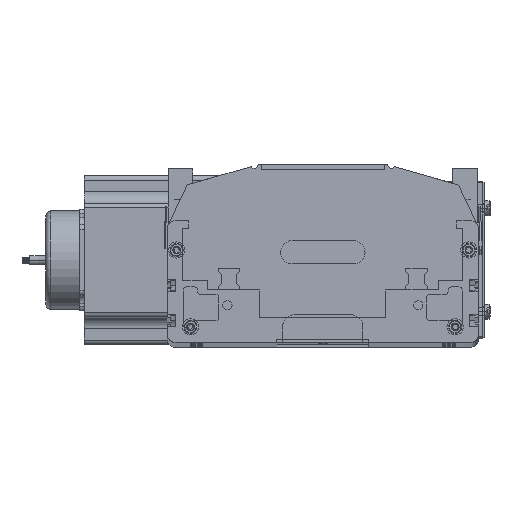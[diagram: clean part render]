
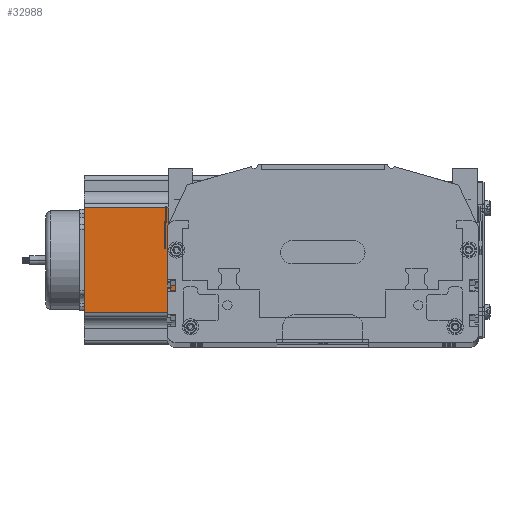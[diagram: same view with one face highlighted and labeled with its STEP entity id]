
A CAD part, top view. The second image highlights one B-rep face of the part: STEP entity #32988.
In plain terms, the highlighted planar face has unit normal (0, 0, 1) as drawn and (0, -1, 0) by its records, which use the part's own axes.
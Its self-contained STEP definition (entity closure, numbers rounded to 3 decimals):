
#32985 = VERTEX_POINT ( 'NONE', #81436 ) ;
#32988 = ADVANCED_FACE ( 'NONE', ( #81437 ), #81438, .F. ) ;
#32989 = VERTEX_POINT ( 'NONE', #81427 ) ;
#32990 = ORIENTED_EDGE ( 'NONE', *, *, #33251, .T. ) ;
#32993 = ORIENTED_EDGE ( 'NONE', *, *, #33001, .T. ) ;
#32994 = EDGE_CURVE ( 'NONE', #32989, #33250, #81389, .T. ) ;
#32997 = ORIENTED_EDGE ( 'NONE', *, *, #32994, .F. ) ;
#33000 = EDGE_LOOP ( 'NONE', ( #32990, #32993, #32997, #33023 ) ) ;
#33001 = EDGE_CURVE ( 'NONE', #32985, #33250, #81384, .T. ) ;
#33021 = EDGE_CURVE ( 'NONE', #32989, #33256, #81341, .T. ) ;
#33023 = ORIENTED_EDGE ( 'NONE', *, *, #33021, .T. ) ;
#33250 = VERTEX_POINT ( 'NONE', #81736 ) ;
#33251 = EDGE_CURVE ( 'NONE', #33256, #32985, #81735, .T. ) ;
#33256 = VERTEX_POINT ( 'NONE', #81729 ) ;
#81322 = CARTESIAN_POINT ( 'NONE',  ( 0., 0., 160.5 ) ) ;
#81340 = CARTESIAN_POINT ( 'NONE',  ( 21.048, 0., 160.5 ) ) ;
#81341 = LINE ( 'NONE', #81340, #81361 ) ;
#81360 = DIRECTION ( 'NONE',  ( 0., 0., -1. ) ) ;
#81361 = VECTOR ( 'NONE', #81360, 1000. ) ;
#81381 = DIRECTION ( 'NONE',  ( 1., 0., 0. ) ) ;
#81383 = CARTESIAN_POINT ( 'NONE',  ( 88.952, 0., 160.5 ) ) ;
#81384 = LINE ( 'NONE', #81383, #81418 ) ;
#81389 = LINE ( 'NONE', #81322, #81432 ) ;
#81417 = DIRECTION ( 'NONE',  ( 0., 0., 1. ) ) ;
#81418 = VECTOR ( 'NONE', #81417, 1000. ) ;
#81427 = CARTESIAN_POINT ( 'NONE',  ( 21.048, 0., 160.5 ) ) ;
#81428 = DIRECTION ( 'NONE',  ( 0., 0., 1. ) ) ;
#81429 = DIRECTION ( 'NONE',  ( 0., 1., 0. ) ) ;
#81430 = CARTESIAN_POINT ( 'NONE',  ( 0., 0., 160.5 ) ) ;
#81431 = AXIS2_PLACEMENT_3D ( 'NONE', #81430, #81429, #81428 ) ;
#81432 = VECTOR ( 'NONE', #81381, 1000. ) ;
#81436 = CARTESIAN_POINT ( 'NONE',  ( 88.952, 0., 0. ) ) ;
#81437 = FACE_OUTER_BOUND ( 'NONE', #33000, .T. ) ;
#81438 = PLANE ( 'NONE',  #81431 ) ;
#81600 = VECTOR ( 'NONE', #81707, 1000. ) ;
#81707 = DIRECTION ( 'NONE',  ( 1., 0., 0. ) ) ;
#81729 = CARTESIAN_POINT ( 'NONE',  ( 21.048, 0., 0. ) ) ;
#81734 = CARTESIAN_POINT ( 'NONE',  ( 0., 0., 0. ) ) ;
#81735 = LINE ( 'NONE', #81734, #81600 ) ;
#81736 = CARTESIAN_POINT ( 'NONE',  ( 88.952, 0., 160.5 ) ) ;
